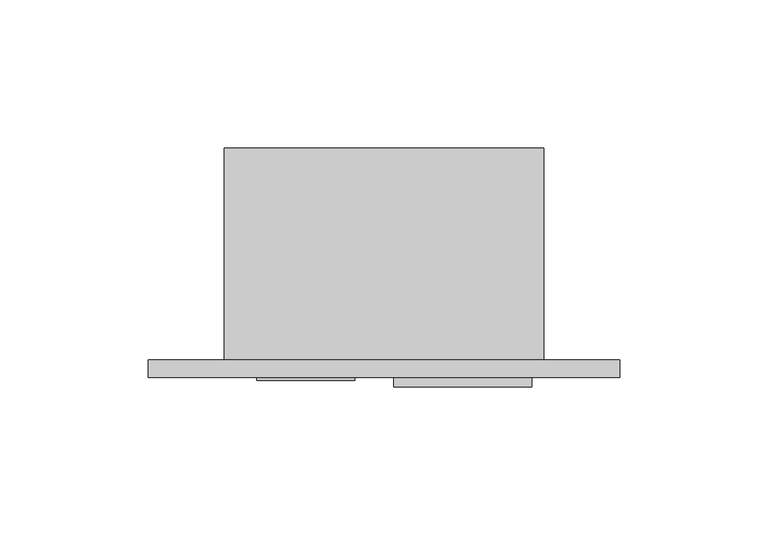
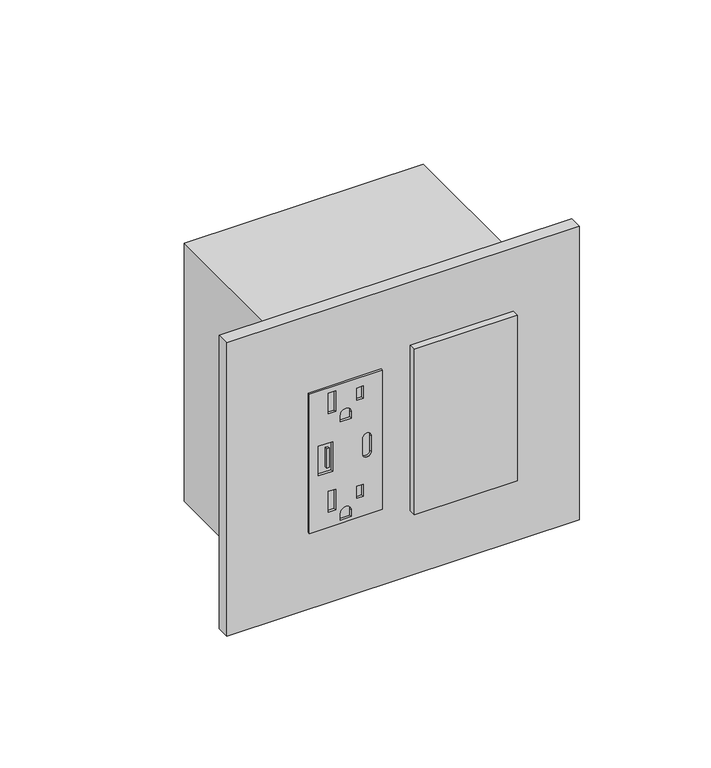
"""IFC4 building model written with IfcOpenShell, lengths in millimetres: proxy geometry, Electrical-Teknion-EPDMD_Vertical_Power_Data_Double-R2019 : PD Vertical Module - Double 15 Amp USB (A+C)."""

from ifc_helpers import new_model, si_unit, point, frame, frame_2d, origin, place, context, project, spatial, polyline, circle_curve, trimmed, segment, composite_curve, outline, extrude, source, transform, mapped, element, save


def electrical_fixtures_e288b9bc(model_context):
    return source(origin(), model_context, "Body", "SweptSolid", [
        extrude(outline(polyline([(490.3844229, 44.0944), (490.3844229, 11.0998), (423.8364229, 11.0998), (423.8364229, 44.0944), (490.3844229, 44.0944)]), holes=[polyline([(487.9460229, 22.9616), (478.1184878, 22.9616), (478.1184878, 19.6342), (487.9460229, 19.6342), (487.9460229, 22.9616)]), polyline([(485.9405554, 35.41014), (480.1239554, 35.41014), (480.1239554, 32.4358), (485.9405554, 32.4358), (485.9405554, 35.41014)]), composite_curve([segment(polyline([(472.3504229, 30.0609), (472.3504229, 25.1333), (475.4492229, 25.1333)]), True, "CONTINUOUS"), segment(trimmed(circle_curve(frame_2d((475.4492229, 27.5971)), 2.4638), [point((475.4492229, 25.1333))], [point((475.4492229, 30.0609))], True, "CARTESIAN"), True, "CONTINUOUS"), segment(polyline([(475.4492229, 30.0609), (472.3504229, 30.0609)]), True, "CONTINUOUS")], self_intersect=False), polyline([(440.9560229, 22.9616), (431.1284878, 22.9616), (431.1284878, 19.6342), (440.9560229, 19.6342), (440.9560229, 22.9616)]), polyline([(438.9505554, 35.41014), (433.1339554, 35.41014), (433.1339554, 32.4358), (438.9505554, 32.4358), (438.9505554, 35.41014)]), composite_curve([segment(polyline([(425.3604229, 30.0609), (425.3604229, 25.1333), (428.4592229, 25.1333)]), True, "CONTINUOUS"), segment(trimmed(circle_curve(frame_2d((428.4592229, 27.5971)), 2.4638), [point((428.4592229, 25.1333))], [point((428.4592229, 30.0609))], True, "CARTESIAN"), True, "CONTINUOUS"), segment(polyline([(428.4592229, 30.0609), (425.3604229, 30.0609)]), True, "CONTINUOUS")], self_intersect=False), polyline([(464.1589229, 21.59), (450.0619229, 21.59), (450.0619229, 15.0876), (464.1589229, 15.0876), (464.1589229, 21.59)]), composite_curve([segment(trimmed(circle_curve(frame_2d((453.3258229, 37.1348)), 1.905), [point((453.3258229, 39.0398))], [point((453.3258229, 35.2298))], True, "CARTESIAN"), True, "CONTINUOUS"), segment(polyline([(453.3258229, 35.2298), (460.8950229, 35.2298)]), True, "CONTINUOUS"), segment(trimmed(circle_curve(frame_2d((460.8950229, 37.1348)), 1.905), [point((460.8950229, 35.2298))], [point((460.8950229, 39.0398))], True, "CARTESIAN"), True, "CONTINUOUS"), segment(polyline([(460.8950229, 39.0398), (453.3258229, 39.0398)]), True, "CONTINUOUS")], self_intersect=False)]), frame((0.0, -6.9294746, 0.0), z_axis=(0.0, 1.0, 0.0), x_axis=(0.0, 0.0, 1.0)), (0.0, 0.0, 1.0), 1.0366746),
        extrude(outline(polyline([(20.0803959, -6.9294746), (18.9613268, -6.9294746), (18.9613268, -5.8928), (20.0803959, -5.8928), (20.0803959, -6.9294746)])), frame((0.0, 0.0, 452.4102391), z_axis=(0.0, 0.0, 1.0), x_axis=(1.0, 0.0, 0.0)), (0.0, 0.0, 1.0), 9.2470447),
        extrude(outline(polyline([(57.3278, -5.8928), (103.8606, -5.8928), (103.8606, -9.0678), (57.3278, -9.0678), (57.3278, -5.8928)])), frame((0.0, 0.0, 417.9026971), z_axis=(0.0, 0.0, 1.0), x_axis=(1.0, 0.0, 0.0)), (0.0, 0.0, 1.0), 79.0448),
        extrude(outline(polyline([(-25.6794, 0.0), (133.7056, 0.0), (133.7056, -5.8928), (-25.6794, -5.8928), (-25.6794, 0.0)])), frame((0.0, 0.0, 386.9302229), z_axis=(0.0, 0.0, 1.0), x_axis=(1.0, 0.0, 0.0)), (0.0, 0.0, 1.0), 140.3604),
        extrude(outline(polyline([(108.0262, 0.0), (0.0, 0.0), (0.0, 71.7296), (108.0262, 71.7296), (108.0262, 0.0)])), frame((0.0, 0.0, 395.3630229), z_axis=(0.0, 0.0, 1.0), x_axis=(1.0, 0.0, 0.0)), (0.0, 0.0, 1.0), 123.4948),
    ])


if __name__ == "__main__":
    model = new_model("IFC4")
    model_context = context("Model", 3, world=origin())
    ifc_project = project(units=[si_unit("LENGTHUNIT", "METRE", prefix="MILLI")], contexts=[model_context])
    site = spatial("IfcSite", under=ifc_project)
    building = spatial("IfcBuilding", under=site)
    placement = place(None, origin())
    electrical_fixtures_shape = electrical_fixtures_e288b9bc(model_context)
    element("IfcBuildingElementProxy", 1, Name="Electrical-Teknion-EPDMD_Vertical_Power_Data_Double-R2019 : PD Vertical Module - Double 15 Amp USB (A+C)", ObjectType="Electrical-Teknion-EPDMD_Vertical_Power_Data_Double-R2019 : PD Vertical Module - Double 15 Amp USB (A+C)", at=placement, inside=building, context=model_context, shape_type="MappedRepresentation", body=[
        mapped(electrical_fixtures_shape, transform((0.0, 0.0, 0.0), x_axis=(1.0, 0.0, 0.0), y_axis=(0.0, 1.0, 0.0), z_axis=(0.0, 0.0, 1.0))),
    ])
    save(model, "model.ifc")
